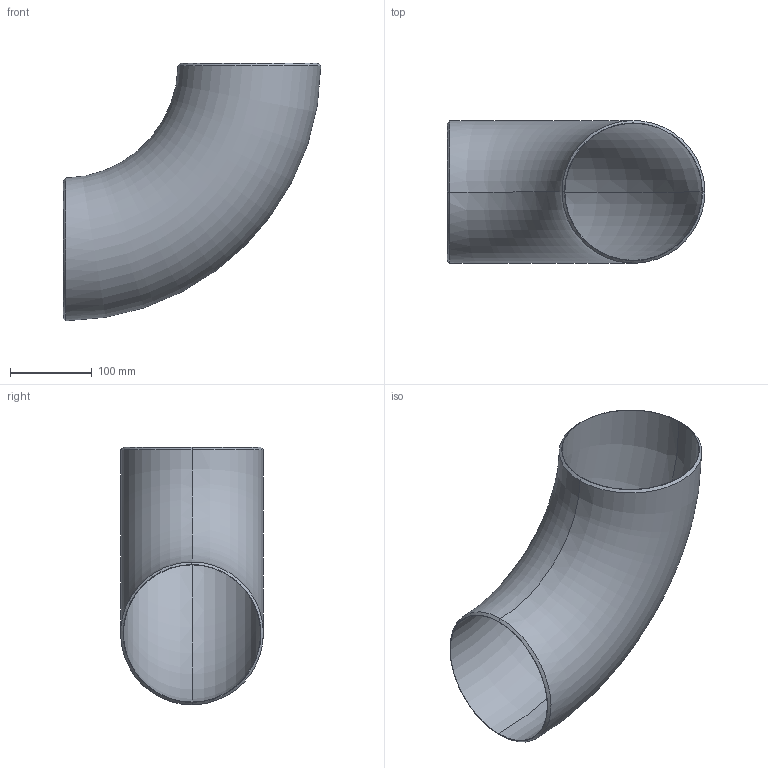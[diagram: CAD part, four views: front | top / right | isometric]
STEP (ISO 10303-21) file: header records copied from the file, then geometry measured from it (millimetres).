
FILE_DESCRIPTION (( 'STEP AP203' ), '1' );
FILE_NAME ('3D_R2651_6X10S_173421240_173425250.STEP', '2024-08-22T09:10:55', ( '' ), ( '' ), 'SwSTEP 2.0', 'SolidWorks 2024', '' );
FILE_SCHEMA (( 'CONFIG_CONTROL_DESIGN' ));
Length unit declared in the file: millimetre
Products named in the file (1): 3D_R2651_6X10S_173421240_173425250
Bounding box: 316.14 x 175.06 x 316.13 mm (x, y, z)
Volume: 645866 mm3; surface area: 388570.8 mm2
Topology: 1 solids, 1 shells, 10 faces, 22 edges, 14 vertices
Faces by surface type: bspline 4, torus 4, plane 2
Entity records: 4367 total; most frequent: CARTESIAN_POINT 4095, ORIENTED_EDGE 44, DIRECTION 30, EDGE_CURVE 22, AXIS2_PLACEMENT_3D 15, VERTEX_POINT 14, B_SPLINE_CURVE_WITH_KNOTS 14, EDGE_LOOP 12
